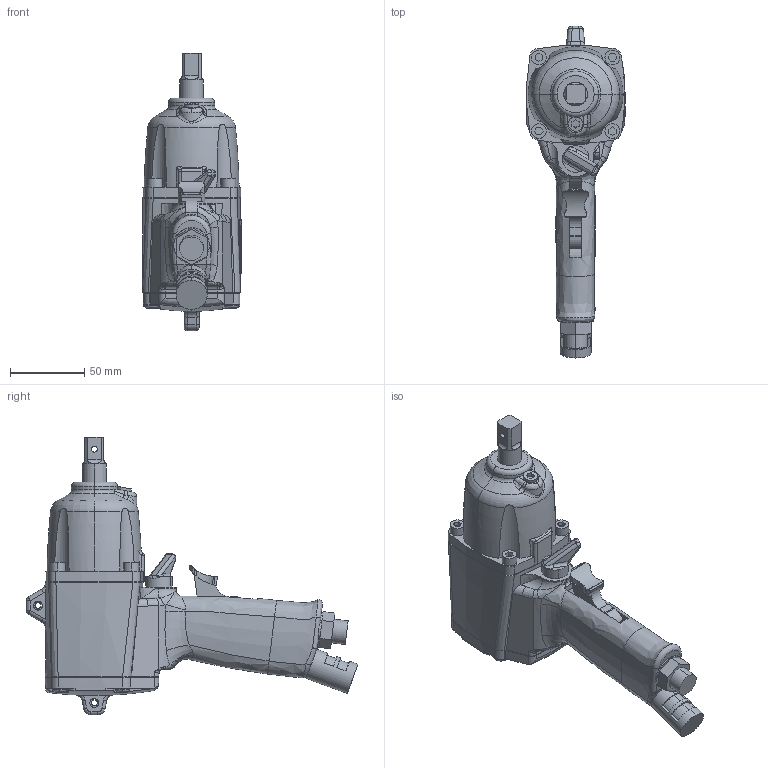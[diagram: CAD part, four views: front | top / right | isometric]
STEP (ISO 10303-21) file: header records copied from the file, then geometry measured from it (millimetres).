
FILE_DESCRIPTION (( 'STEP AP203' ), '1' );
FILE_NAME ('UX-1000.STEP', '2006-09-04T01:00:29', ( '' ), ( '' ), 'SwSTEP 2.0', 'SolidWorks 2003240', '' );
FILE_SCHEMA (( 'CONFIG_CONTROL_DESIGN' ));
Length unit declared in the file: millimetre
Products named in the file (7): 1943194_UX-1000_蹬怮椔; 1944394_UX-1000_蹬怮椔; UX-1000; 1940254_UX-1000_蹬怮椔; 0261077_UX-1000_蹬怮椔; 1940124_UX-1000_蹬怮椔; 0232124_UX-1000_蹬怮椔
Assembly tree (6 placements, depth 2):
  UX-1000
    1940254_UX-1000_蹬怮椔
    0232124_UX-1000_蹬怮椔
    1943194_UX-1000_蹬怮椔
    1944394_UX-1000_蹬怮椔
    1940124_UX-1000_蹬怮椔
    0261077_UX-1000_蹬怮椔
Bounding box: 66.43 x 223.47 x 186.85 mm (x, y, z)
Volume: 660145.3 mm3; surface area: 85110.7 mm2
Topology: 6 solids, 6 shells, 833 faces, 2193 edges, 1414 vertices
Faces by surface type: plane 361, cylinder 228, bspline 197, torus 33, sphere 11, cone 3
Entity records: 89908 total; most frequent: CARTESIAN_POINT 70793, ORIENTED_EDGE 4362, DIRECTION 2955, EDGE_CURVE 2181, VERTEX_POINT 1414, AXIS2_PLACEMENT_3D 1073, B_SPLINE_CURVE_WITH_KNOTS 906, EDGE_LOOP 897
